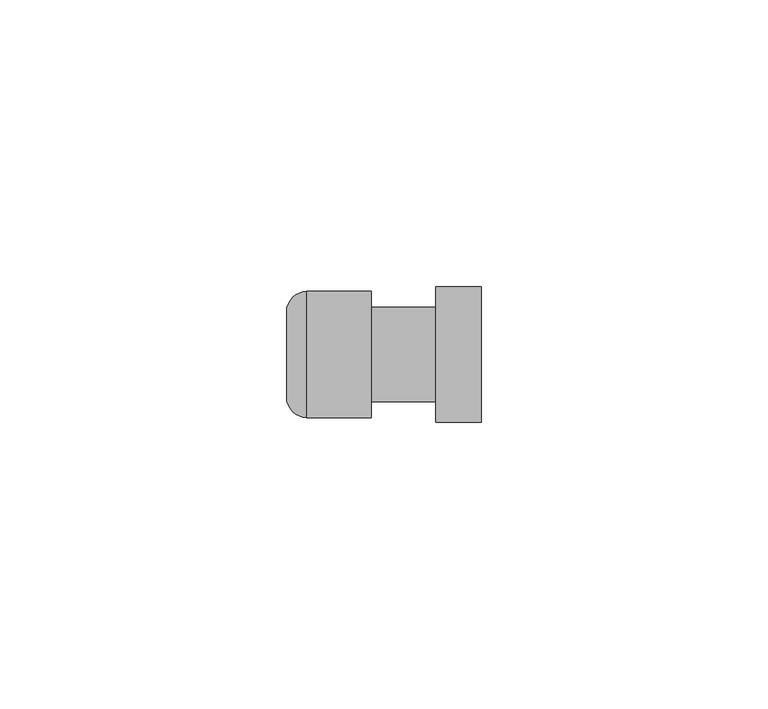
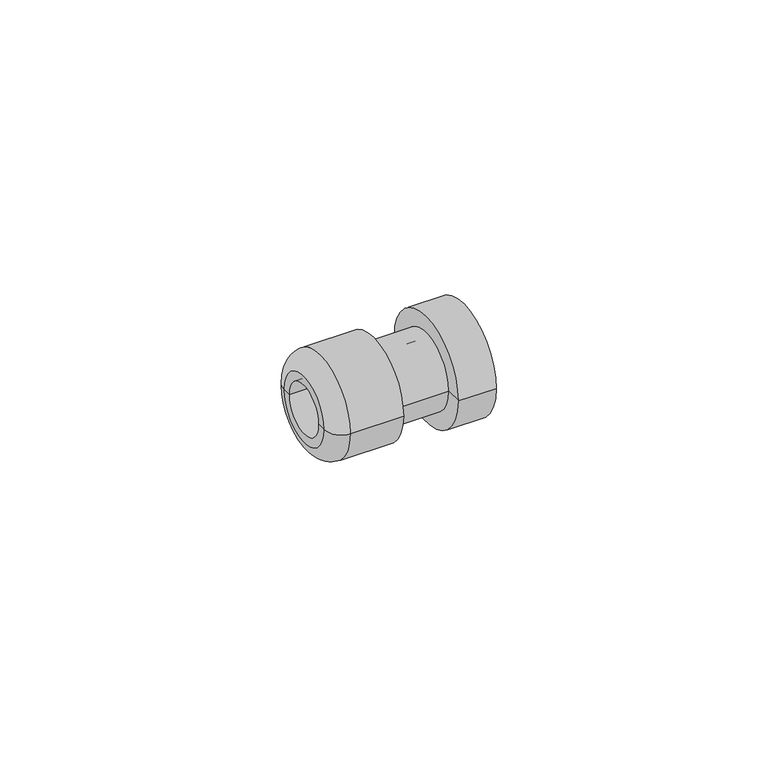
"""IFC4 building model written with IfcOpenShell, lengths in millimetres: cable carrier fitting geometry."""

from ifc_helpers import new_model, si_unit, point, frame, origin, place, context, project, spatial, polyline, circle_curve, ellipse_curve, trimmed, source, transform, mapped, element, save
from ifc_brep_helpers import plane_surface, cylinder_surface, revolved_surface, advanced_brep


def cable_carrier_fitting_c5d78289(model_context):
    return source(origin(), model_context, "Body", "AdvancedBrep", [
        advanced_brep(
        [(0.0, -11.0, 0.0), (0.0, 11.0, 0.0), (0.0, 8.25, 0.0), (0.0, -8.25, 0.0), (-11.239955, -11.0, 0.0), (-11.239955, 11.0, 0.0), (-14.8, -7.439955, 0.0), (-14.8, 7.439955, 0.0), (-14.8, -5.5, 0.0), (-14.8, 5.5, 0.0), (19.2, -5.5, 0.0), (19.2, 5.5, 0.0), (19.2, -11.85, 0.0), (19.2, 11.85, 0.0), (11.2, -11.85, 0.0), (11.2, 11.85, 0.0), (11.2, -8.25, 0.0), (11.2, 8.25, 0.0)],
        [
            (0, 1, circle_curve(frame((0.0, 0.0, 0.0), z_axis=(1.0, 0.0, 0.0), x_axis=(0.0, 1.0, 0.0)), 11.0)),
            (1, 2),
            (2, 3, circle_curve(frame((0.0, 0.0, 0.0), z_axis=(-1.0, 0.0, 0.0), x_axis=(0.0, 1.0, 0.0)), 8.25)),
            (3, 0),
            (1, 0, circle_curve(frame((0.0, 0.0, 0.0), z_axis=(1.0, 0.0, 0.0), x_axis=(0.0, 1.0, 0.0)), 11.0)),
            (3, 2, circle_curve(frame((0.0, 0.0, 0.0), z_axis=(-1.0, 0.0, 0.0), x_axis=(0.0, 1.0, 0.0)), 8.25)),
            (4, 5, circle_curve(frame((-11.239955, 0.0, 0.0), z_axis=(1.0, 0.0, 0.0), x_axis=(0.0, 1.0, 0.0)), 11.0)),
            (5, 1),
            (0, 4),
            (5, 4, circle_curve(frame((-11.239955, 0.0, 0.0), z_axis=(1.0, 0.0, 0.0), x_axis=(0.0, 1.0, 0.0)), 11.0)),
            (6, 7, circle_curve(frame((-14.8, 0.0, 0.0), z_axis=(1.0, 0.0, 0.0), x_axis=(0.0, 1.0, 0.0)), 7.439955)),
            (7, 5, circle_curve(frame((-11.239955, 7.439955, 0.0), z_axis=(0.0, 0.0, -1.0), x_axis=(1.0, 0.0, 0.0)), 3.560045)),
            (4, 6, circle_curve(frame((-11.239955, -7.439955, 0.0), z_axis=(0.0, 0.0, -1.0), x_axis=(1.0, 0.0, 0.0)), 3.560045)),
            (7, 6, circle_curve(frame((-14.8, 0.0, 0.0), z_axis=(1.0, 0.0, 0.0), x_axis=(0.0, 1.0, 0.0)), 7.439955)),
            (8, 9, circle_curve(frame((-14.8, 0.0, 0.0), z_axis=(1.0, 0.0, 0.0), x_axis=(0.0, 1.0, 0.0)), 5.5)),
            (9, 7),
            (6, 8),
            (9, 8, circle_curve(frame((-14.8, 0.0, 0.0), z_axis=(1.0, 0.0, 0.0), x_axis=(0.0, 1.0, 0.0)), 5.5)),
            (10, 11, circle_curve(frame((19.2, 0.0, 0.0), z_axis=(1.0, 0.0, 0.0), x_axis=(0.0, 1.0, 0.0)), 5.5)),
            (11, 9),
            (8, 10),
            (11, 10, circle_curve(frame((19.2, 0.0, 0.0), z_axis=(1.0, 0.0, 0.0), x_axis=(0.0, 1.0, 0.0)), 5.5)),
            (12, 13, circle_curve(frame((19.2, 0.0, 0.0), z_axis=(1.0, 0.0, 0.0), x_axis=(0.0, 1.0, 0.0)), 11.85)),
            (13, 11),
            (10, 12),
            (13, 12, circle_curve(frame((19.2, 0.0, 0.0), z_axis=(1.0, 0.0, 0.0), x_axis=(0.0, 1.0, 0.0)), 11.85)),
            (14, 15, circle_curve(frame((11.2, 0.0, 0.0), z_axis=(1.0, 0.0, 0.0), x_axis=(0.0, 1.0, 0.0)), 11.85)),
            (15, 13),
            (12, 14),
            (15, 14, circle_curve(frame((11.2, 0.0, 0.0), z_axis=(1.0, 0.0, 0.0), x_axis=(0.0, 1.0, 0.0)), 11.85)),
            (16, 17, circle_curve(frame((11.2, 0.0, 0.0), z_axis=(1.0, 0.0, 0.0), x_axis=(0.0, 1.0, 0.0)), 8.25)),
            (17, 15),
            (14, 16),
            (17, 16, circle_curve(frame((11.2, 0.0, 0.0), z_axis=(1.0, 0.0, 0.0), x_axis=(0.0, 1.0, 0.0)), 8.25)),
            (2, 17),
            (16, 3),
        ],
        [
            plane_surface(frame((0.0, 0.0, 0.0), z_axis=(1.0, 0.0, 0.0), x_axis=(0.0, 1.0, 0.0))),
            cylinder_surface(frame((1543.6, 0.0, 0.0), z_axis=(-1.0, 0.0, 0.0), x_axis=(0.0, 1.0, 0.0)), 11.0),
            revolved_surface(trimmed(ellipse_curve(frame((-11.239955, 7.439955, 0.0), z_axis=(0.0, 0.0, 1.0), x_axis=(1.0, 0.0, 0.0)), 3.560045, 3.560045), [point((-11.239955, 11.0, 0.0))], [point((-14.8, 7.439955, 0.0))], True, "CARTESIAN"), (1543.6, 0.0, 0.0), (-1.0, 0.0, 0.0)),
            plane_surface(frame((-14.8, 0.0, 0.0), z_axis=(-1.0, 0.0, 0.0), x_axis=(0.0, 1.0, 0.0))),
            revolved_surface(polyline([(-14.799999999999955, 5.5, 0.0), (19.200000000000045, 5.5, 0.0)]), (1543.6, 0.0, 0.0), (-1.0, 0.0, 0.0)),
            plane_surface(frame((19.2, 0.0, 0.0), z_axis=(1.0, 0.0, 0.0), x_axis=(0.0, 1.0, 0.0))),
            cylinder_surface(frame((1543.6, 0.0, 0.0), z_axis=(-1.0, 0.0, 0.0), x_axis=(0.0, 1.0, 0.0)), 11.85),
            plane_surface(frame((11.2, 0.0, 0.0), z_axis=(-1.0, 0.0, 0.0), x_axis=(0.0, 1.0, 0.0))),
            cylinder_surface(frame((1543.6, 0.0, 0.0), z_axis=(-1.0, 0.0, 0.0), x_axis=(0.0, 1.0, 0.0)), 8.25),
        ],
        [
            (0, [[1, 2, 3, 4]]),
            (0, [[5, -4, 6, -2]]),
            (1, [[7, 8, -1, 9]]),
            (1, [[10, -9, -5, -8]]),
            (2, [[11, 12, -7, 13]]),
            (2, [[14, -13, -10, -12]]),
            (3, [[15, 16, -11, 17]]),
            (3, [[18, -17, -14, -16]]),
            (4, [[19, 20, -15, 21]]),
            (4, [[22, -21, -18, -20]]),
            (5, [[23, 24, -19, 25]]),
            (5, [[26, -25, -22, -24]]),
            (6, [[27, 28, -23, 29]]),
            (6, [[30, -29, -26, -28]]),
            (7, [[31, 32, -27, 33]]),
            (7, [[34, -33, -30, -32]]),
            (8, [[-3, 35, -31, 36]]),
            (8, [[-6, -36, -34, -35]]),
        ],
    ),
    ])


if __name__ == "__main__":
    model = new_model("IFC4")
    model_context = context("Model", 3, world=origin())
    ifc_project = project(units=[si_unit("LENGTHUNIT", "METRE", prefix="MILLI")], contexts=[model_context])
    site = spatial("IfcSite", under=ifc_project)
    building = spatial("IfcBuilding", under=site)
    placement = place(None, origin())
    cable_carrier_fitting_shape = cable_carrier_fitting_c5d78289(model_context)
    element("IfcCableCarrierFitting", 1, at=placement, inside=building, context=model_context, shape_type="MappedRepresentation", body=[
        mapped(cable_carrier_fitting_shape, transform((0.0, 0.0, 0.0), x_axis=(1.0, 0.0, 0.0), y_axis=(0.0, 1.0, 0.0), z_axis=(0.0, 0.0, 1.0))),
    ])
    save(model, "model.ifc")
